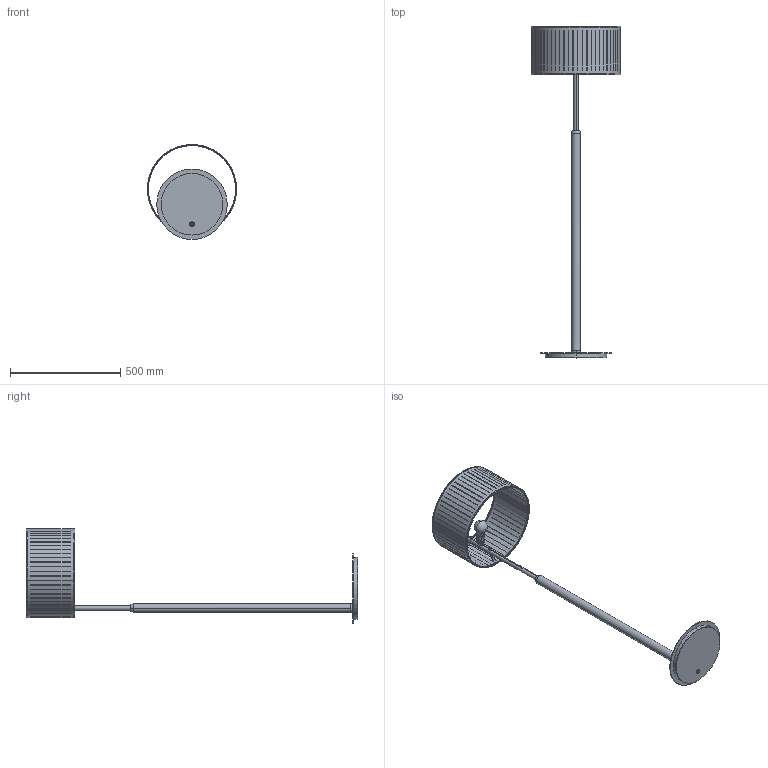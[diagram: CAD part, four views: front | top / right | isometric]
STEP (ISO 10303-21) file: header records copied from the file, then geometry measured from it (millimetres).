
FILE_DESCRIPTION (( 'STEP AP214' ), '1' );
FILE_NAME ('AUTUMN FLOOR.STEP', '2025-07-23T11:04:38', ( '' ), ( '' ), 'SwSTEP 2.0', 'SolidWorks 2016', '' );
FILE_SCHEMA (( 'AUTOMOTIVE_DESIGN' ));
Length unit declared in the file: millimetre
Products named in the file (46): AUTUMN FLOOR; GUIA METALICA PARA TIJA _ MACHO METALICO; TUBO_SUPERIOR_AUTUMN_SUELO; TIJA M10x1 LARGA; PANTALLA INTERIOR DE TELA PARA TROQUELADO; PALO REDONDEADO DE 100CM_Ø40CM; BOMBILLA E27; ENSAMBLAJE PANTALLA TROQUELADA SIN BOMBILLA; PANTALLA TROQUELA Ø40CM; PIEZA INFERIOR CASQUILLO BOMBILLA E27; CHAPA DE MADERA Ø32CM; CILINDRO TEFLON Ø4MM INTERIOR x 20MM; EMBELLECEDOR PARA PANTALLA; EMBELLECEDOR TELA PANTALLA MADERA A RAYAS; INSERTO MADERA M10; ARANDELA EMBELLECEDOR PALO; PIEZA SUPERIOR CASQUILLO BOMBILLA E27; ARANDELA METALICA 1CM; BASE MDF TEÑIDO NEGRO Ø28CM; BASE DE HIERRO Y MADER Ø32CM; TORNILLO M10 BASES LAMPARAS; ESTRUCTURA PANTALLA TROQUELADA SIN SUJECCION BOMBILLA; BASE HIERRO Ø28CM
Assembly tree (25 placements, depth 3):
  AUTUMN FLOOR
    BASE DE HIERRO Y MADER Ø32CM
      BASE HIERRO Ø28CM
      CHAPA DE MADERA Ø32CM
      BASE MDF TEÑIDO NEGRO Ø28CM
    PALO REDONDEADO DE 100CM_Ø40CM
    TUBO_SUPERIOR_AUTUMN_SUELO
    PIEZA INFERIOR CASQUILLO BOMBILLA E27
    PIEZA SUPERIOR CASQUILLO BOMBILLA E27
    BOMBILLA E27
    ENSAMBLAJE PANTALLA TROQUELADA SIN BOMBILLA
      ESTRUCTURA PANTALLA TROQUELADA SIN SUJECCION BOMBILLA
      PANTALLA TROQUELA Ø40CM
      EMBELLECEDOR TELA PANTALLA MADERA A RAYAS  x2
      PANTALLA INTERIOR DE TELA PARA TROQUELADO
    EMBELLECEDOR PARA PANTALLA  x2
    ARANDELA METALICA 1CM
    INSERTO MADERA M10
    TORNILLO M10 BASES LAMPARAS
    GUIA METALICA PARA TIJA _ MACHO METALICO
    ARANDELA EMBELLECEDOR PALO
    TIJA M10x1 LARGA
    CILINDRO TEFLON Ø4MM INTERIOR x 20MM  x2
  GUIA METALICA PARA TIJA _ MACHO METALICO
  TUBO_SUPERIOR_AUTUMN_SUELO
  PALO REDONDEADO DE 100CM_Ø40CM
  PIEZA INFERIOR CASQUILLO BOMBILLA E27
Bounding box: 405.4 x 1508.25 x 431.7 mm (x, y, z)
Volume: 2995386.6 mm3; surface area: 1639173.4 mm2
Topology: 23 solids, 24 shells, 573 faces, 1567 edges, 1029 vertices
Faces by surface type: plane 390, cylinder 145, cone 20, torus 14, bspline 2, sphere 2
Entity records: 20191 total; most frequent: CARTESIAN_POINT 4237, DIRECTION 3156, ORIENTED_EDGE 2988, EDGE_CURVE 1496, AXIS2_PLACEMENT_3D 1149, VERTEX_POINT 984, VECTOR 858, LINE 858
